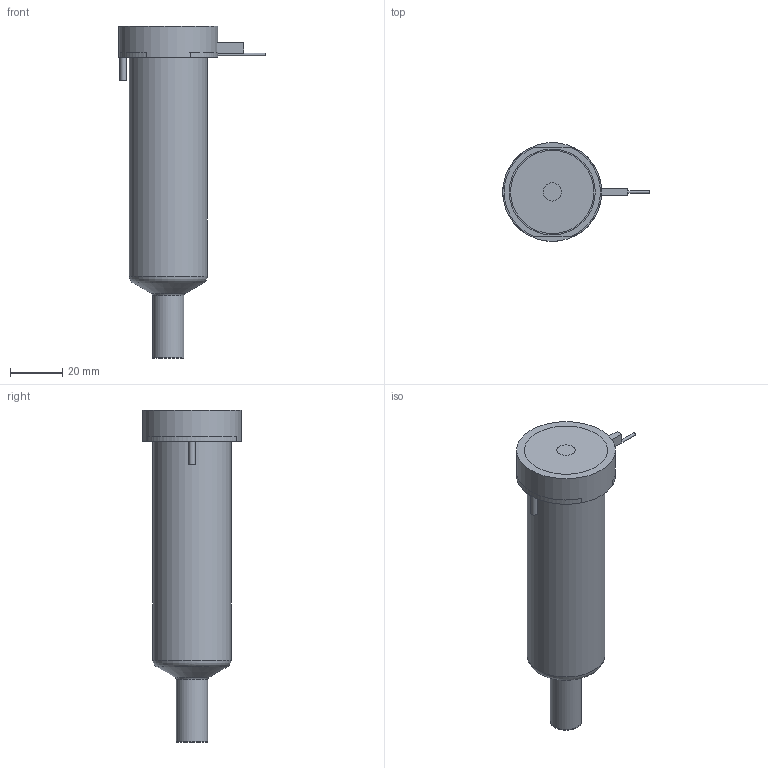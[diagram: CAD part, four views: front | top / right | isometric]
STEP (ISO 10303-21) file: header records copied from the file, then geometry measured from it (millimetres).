
FILE_DESCRIPTION(/* description */ (''),/* implementation_level */ '2;1');
FILE_NAME(/* name */ 'BXYCN16095N4F_200C_a',/* time_stamp */ '2016-02-18T13:41:50+13:00',/* author */ (''),/* organization */ (''),/* preprocessor_version */ 'ST-DEVELOPER v9',/* originating_system */ 'UGS - NX 4.0',/* authorisation */ '');
FILE_SCHEMA (('CONFIG_CONTROL_DESIGN'));
Length unit declared in the file: millimetre
Products named in the file (1): matt4A4Bpkne
Bounding box: 56.25 x 38 x 127.52 mm (x, y, z)
Volume: 136405.6 mm3; surface area: 25599.9 mm2
Topology: 2 solids, 2 shells, 67 faces, 149 edges, 97 vertices
Faces by surface type: plane 31, cylinder 22, torus 7, cone 5, bspline 1, sphere 1
Full cylindrical faces by diameter (mm): 1 x2, 2 x1, 2.5 x1, 5 x1, 7 x1, 11.61 x1, 11.995 x2, 14.8 x1, 25.4 x1, 30 x1, 38 x1
Entity records: 1951 total; most frequent: CARTESIAN_POINT 487, DIRECTION 302, ORIENTED_EDGE 234, AXIS2_PLACEMENT_3D 130, EDGE_CURVE 117, EDGE_LOOP 104, VERTEX_POINT 89, ADVANCED_FACE 67
